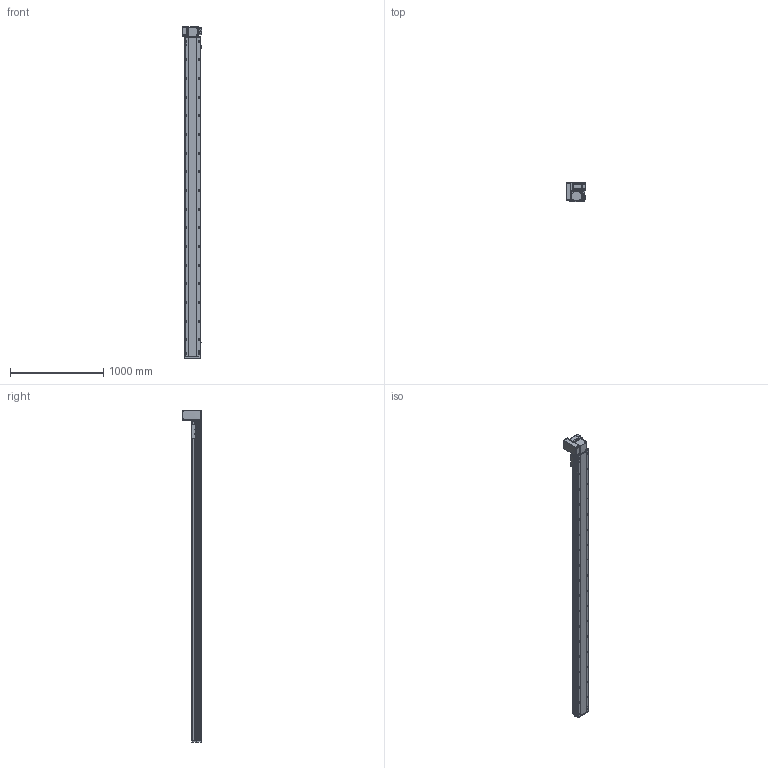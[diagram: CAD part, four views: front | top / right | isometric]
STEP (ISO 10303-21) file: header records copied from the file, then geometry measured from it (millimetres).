
FILE_DESCRIPTION (( 'STEP AP214' ), '1' );
FILE_NAME ('RTB17S-XX-3150-LW-M75-C4.STEP', '2025-12-12T01:20:57', ( '' ), ( '' ), 'SwSTEP 2.0', 'SolidWorks 2018', '' );
FILE_SCHEMA (( 'AUTOMOTIVE_DESIGN' ));
Length unit declared in the file: millimetre
Products named in the file (15): RTB22S-GY-005P^RTB17S-LW-々湍釱蚾饜-750W_RTB17S-XX-XX-LW-M75-C4; 750W萇儂^RTB17S-XX-XX-LW-M75-C4; RTB17S-賑釱^RTB17S-XX-XX-LW-M75-C4; RTB17S-LW-々湍釱蚾饜-750W^RTB17S-XX-XX-LW-M75-C4; RTB22S-GY-018P^RTB17S-LW-々湍釱蚾饜-750W_RTB17S-XX-XX-LW-M75-C4; RTH13-BL-012覜茼え俋离^RTB17S-賑釱_RTB17S-XX-XX-LW-M75-C4; EE672^RTB17S-XX-XX-LW-M75-C4; RTB22S-GY-008-M75--萇儂啣^RTB17S-LW-々湍釱蚾饜-750W_RTB17S-XX-XX-LW-M75-C4; RTB22S-GY-017P^RTB17S-LW-々湍釱蚾饜-750W_RTB17S-XX-XX-LW-M75-C4; RTB17S-L-014-T20-P75--々湍釱^RTB17S-LW-々湍釱蚾饜-750W_RTB17S-XX-XX-LW-M75-C4; RTB17S-L-007奻裔^RTB17S-XX-XX-LW-M75-C4; RTB17-R-011菁釱^RTB17S-XX-XX-LW-M75-C4; RTB17S-L-004-賑釱^RTB17S-賑釱_RTB17S-XX-XX-LW-M75-C4; RTB17S-L-001-耜醱啣^RTB17S-XX-XX-LW-M75-C4; RTB17S-XX-3150-LW-M75-C4
Assembly tree (17 placements, depth 3):
  RTB17S-XX-3150-LW-M75-C4
    RTB17-R-011菁釱^RTB17S-XX-XX-LW-M75-C4
    EE672^RTB17S-XX-XX-LW-M75-C4  x3
    RTB17S-L-001-耜醱啣^RTB17S-XX-XX-LW-M75-C4
    RTB17S-賑釱^RTB17S-XX-XX-LW-M75-C4
      RTB17S-L-004-賑釱^RTB17S-賑釱_RTB17S-XX-XX-LW-M75-C4
      RTH13-BL-012覜茼え俋离^RTB17S-賑釱_RTB17S-XX-XX-LW-M75-C4
    RTB17S-L-007奻裔^RTB17S-XX-XX-LW-M75-C4
    750W萇儂^RTB17S-XX-XX-LW-M75-C4
    RTB17S-LW-々湍釱蚾饜-750W^RTB17S-XX-XX-LW-M75-C4
      RTB17S-L-014-T20-P75--々湍釱^RTB17S-LW-々湍釱蚾饜-750W_RTB17S-XX-XX-LW-M75-C4
      RTB22S-GY-005P^RTB17S-LW-々湍釱蚾饜-750W_RTB17S-XX-XX-LW-M75-C4
      RTB22S-GY-017P^RTB17S-LW-々湍釱蚾饜-750W_RTB17S-XX-XX-LW-M75-C4  x2
      RTB22S-GY-008-M75--萇儂啣^RTB17S-LW-々湍釱蚾饜-750W_RTB17S-XX-XX-LW-M75-C4
      RTB22S-GY-018P^RTB17S-LW-々湍釱蚾饜-750W_RTB17S-XX-XX-LW-M75-C4
Bounding box: 210.4 x 201.5 x 3557.5 mm (x, y, z)
Volume: 25641130.6 mm3; surface area: 4711826.9 mm2
Topology: 17 solids, 17 shells, 2265 faces, 6376 edges, 4130 vertices
Faces by surface type: plane 992, cylinder 857, bspline 294, cone 110, sphere 8, torus 4
Entity records: 66550 total; most frequent: CARTESIAN_POINT 19840, ORIENTED_EDGE 9596, DIRECTION 8852, EDGE_CURVE 4798, AXIS2_PLACEMENT_3D 3150, VERTEX_POINT 3134, LINE 2552, VECTOR 2552
